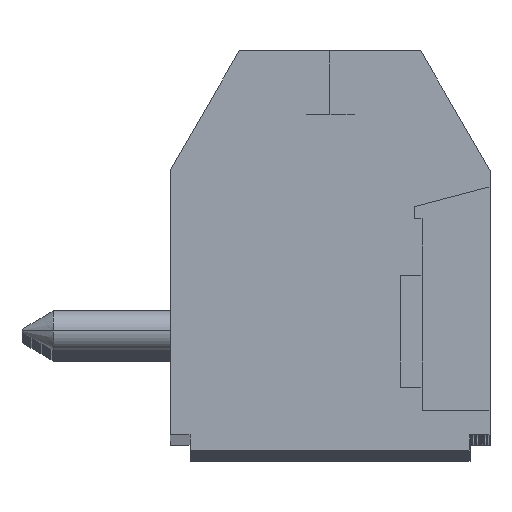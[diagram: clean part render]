
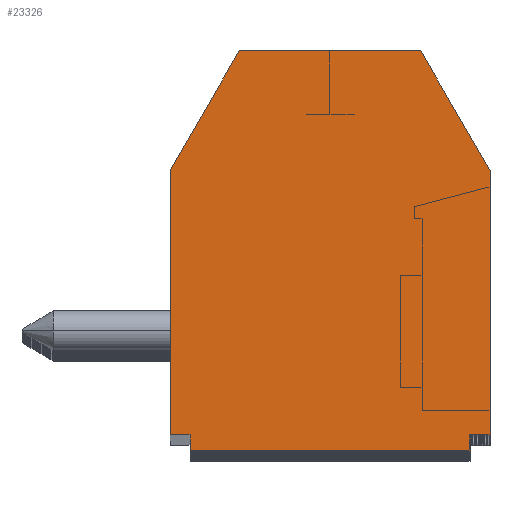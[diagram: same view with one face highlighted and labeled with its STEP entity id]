
A CAD part, top view. The second image highlights one B-rep face of the part: STEP entity #23326.
In plain terms, the highlighted planar face has unit normal (0, 0, 1).
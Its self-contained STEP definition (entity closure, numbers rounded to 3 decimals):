
#19440 = VERTEX_POINT ( 'NONE', #81967 ) ;
#19442 = EDGE_CURVE ( 'NONE', #19444, #19440, #81966, .T. ) ;
#19444 = VERTEX_POINT ( 'NONE', #81962 ) ;
#21238 = VERTEX_POINT ( 'NONE', #83996 ) ;
#21240 = EDGE_CURVE ( 'NONE', #19440, #21238, #83995, .T. ) ;
#21251 = VERTEX_POINT ( 'NONE', #83985 ) ;
#21339 = EDGE_CURVE ( 'NONE', #21238, #21251, #84052, .T. ) ;
#21347 = VERTEX_POINT ( 'NONE', #84109 ) ;
#21349 = EDGE_CURVE ( 'NONE', #21251, #21347, #84108, .T. ) ;
#21933 = VERTEX_POINT ( 'NONE', #84090 ) ;
#21942 = EDGE_CURVE ( 'NONE', #21933, #21957, #84085, .T. ) ;
#21957 = VERTEX_POINT ( 'NONE', #84126 ) ;
#21964 = VERTEX_POINT ( 'NONE', #84116 ) ;
#21966 = EDGE_CURVE ( 'NONE', #21957, #21964, #84115, .T. ) ;
#22036 = EDGE_CURVE ( 'NONE', #21347, #21933, #84198, .T. ) ;
#23107 = EDGE_CURVE ( 'NONE', #23109, #19444, #84797, .T. ) ;
#23109 = VERTEX_POINT ( 'NONE', #84793 ) ;
#23296 = ORIENTED_EDGE ( 'NONE', *, *, #21942, .T. ) ;
#23298 = ORIENTED_EDGE ( 'NONE', *, *, #21966, .T. ) ;
#23300 = ORIENTED_EDGE ( 'NONE', *, *, #23302, .F. ) ;
#23302 = EDGE_CURVE ( 'NONE', #23304, #21964, #84776, .T. ) ;
#23304 = VERTEX_POINT ( 'NONE', #84772 ) ;
#23305 = ORIENTED_EDGE ( 'NONE', *, *, #23307, .F. ) ;
#23307 = EDGE_CURVE ( 'NONE', #23109, #23304, #84839, .T. ) ;
#23309 = ORIENTED_EDGE ( 'NONE', *, *, #23107, .T. ) ;
#23311 = ORIENTED_EDGE ( 'NONE', *, *, #19442, .T. ) ;
#23313 = ORIENTED_EDGE ( 'NONE', *, *, #21240, .T. ) ;
#23314 = ORIENTED_EDGE ( 'NONE', *, *, #21339, .T. ) ;
#23326 = ADVANCED_FACE ( 'NONE', ( #84829 ), #84828, .T. ) ;
#23327 = EDGE_LOOP ( 'NONE', ( #23328, #23329, #23296, #23298, #23300, #23305, #23309, #23311, #23313, #23314 ) ) ;
#23328 = ORIENTED_EDGE ( 'NONE', *, *, #21349, .T. ) ;
#23329 = ORIENTED_EDGE ( 'NONE', *, *, #22036, .T. ) ;
#81962 = CARTESIAN_POINT ( 'NONE',  ( -3.062, -2.845, 0. ) ) ;
#81963 = DIRECTION ( 'NONE',  ( 0., -1., 0. ) ) ;
#81964 = VECTOR ( 'NONE', #81963, 1000. ) ;
#81965 = CARTESIAN_POINT ( 'NONE',  ( -3.062, -3.045, 0. ) ) ;
#81966 = LINE ( 'NONE', #81965, #81964 ) ;
#81967 = CARTESIAN_POINT ( 'NONE',  ( -3.062, -3.245, 0. ) ) ;
#83985 = CARTESIAN_POINT ( 'NONE',  ( 3.938, -2.845, 0. ) ) ;
#83992 = DIRECTION ( 'NONE',  ( 1., 0., 0. ) ) ;
#83993 = VECTOR ( 'NONE', #83992, 1000. ) ;
#83994 = CARTESIAN_POINT ( 'NONE',  ( 0.438, -3.245, 0. ) ) ;
#83995 = LINE ( 'NONE', #83994, #83993 ) ;
#83996 = CARTESIAN_POINT ( 'NONE',  ( 3.938, -3.245, 0. ) ) ;
#84049 = DIRECTION ( 'NONE',  ( 0., 1., 0. ) ) ;
#84050 = VECTOR ( 'NONE', #84049, 1000. ) ;
#84051 = CARTESIAN_POINT ( 'NONE',  ( 3.938, 1.755, 0. ) ) ;
#84052 = LINE ( 'NONE', #84051, #84050 ) ;
#84082 = DIRECTION ( 'NONE',  ( -0.5, 0.866, 0. ) ) ;
#84083 = VECTOR ( 'NONE', #84082, 1000. ) ;
#84084 = CARTESIAN_POINT ( 'NONE',  ( 4.438, 3.755, 0. ) ) ;
#84085 = LINE ( 'NONE', #84084, #84083 ) ;
#84090 = CARTESIAN_POINT ( 'NONE',  ( 4.438, 3.755, 0. ) ) ;
#84105 = DIRECTION ( 'NONE',  ( 1., 0., 0. ) ) ;
#84106 = VECTOR ( 'NONE', #84105, 1000. ) ;
#84107 = CARTESIAN_POINT ( 'NONE',  ( 0.438, -2.845, 0. ) ) ;
#84108 = LINE ( 'NONE', #84107, #84106 ) ;
#84109 = CARTESIAN_POINT ( 'NONE',  ( 4.438, -2.845, 0. ) ) ;
#84113 = VECTOR ( 'NONE', #84174, 1000. ) ;
#84114 = CARTESIAN_POINT ( 'NONE',  ( -3.562, 6.755, 0. ) ) ;
#84115 = LINE ( 'NONE', #84114, #84113 ) ;
#84116 = CARTESIAN_POINT ( 'NONE',  ( -1.83, 6.755, 0. ) ) ;
#84126 = CARTESIAN_POINT ( 'NONE',  ( 2.706, 6.755, 0. ) ) ;
#84174 = DIRECTION ( 'NONE',  ( -1., 0., 0. ) ) ;
#84195 = DIRECTION ( 'NONE',  ( 0., 1., 0. ) ) ;
#84196 = VECTOR ( 'NONE', #84195, 1000. ) ;
#84197 = CARTESIAN_POINT ( 'NONE',  ( 4.438, -3.245, 0. ) ) ;
#84198 = LINE ( 'NONE', #84197, #84196 ) ;
#84772 = CARTESIAN_POINT ( 'NONE',  ( -3.562, 3.755, 0. ) ) ;
#84773 = DIRECTION ( 'NONE',  ( 0.5, 0.866, 0. ) ) ;
#84774 = VECTOR ( 'NONE', #84773, 1000. ) ;
#84775 = CARTESIAN_POINT ( 'NONE',  ( -2.696, 5.255, 0. ) ) ;
#84776 = LINE ( 'NONE', #84775, #84774 ) ;
#84793 = CARTESIAN_POINT ( 'NONE',  ( -3.562, -2.845, 0. ) ) ;
#84794 = DIRECTION ( 'NONE',  ( 1., 0., 0. ) ) ;
#84795 = VECTOR ( 'NONE', #84794, 1000. ) ;
#84796 = CARTESIAN_POINT ( 'NONE',  ( -3.562, -2.845, 0. ) ) ;
#84797 = LINE ( 'NONE', #84796, #84795 ) ;
#84823 = DIRECTION ( 'NONE',  ( 1., 0., 0. ) ) ;
#84824 = DIRECTION ( 'NONE',  ( 0., 0., 1. ) ) ;
#84825 = CARTESIAN_POINT ( 'NONE',  ( -3.562, -3.245, 0. ) ) ;
#84827 = AXIS2_PLACEMENT_3D ( 'NONE', #84825, #84824, #84823 ) ;
#84828 = PLANE ( 'NONE',  #84827 ) ;
#84829 = FACE_OUTER_BOUND ( 'NONE', #23327, .T. ) ;
#84836 = DIRECTION ( 'NONE',  ( 0., 1., 0. ) ) ;
#84837 = VECTOR ( 'NONE', #84836, 1000. ) ;
#84838 = CARTESIAN_POINT ( 'NONE',  ( -3.562, 0.455, 0. ) ) ;
#84839 = LINE ( 'NONE', #84838, #84837 ) ;
